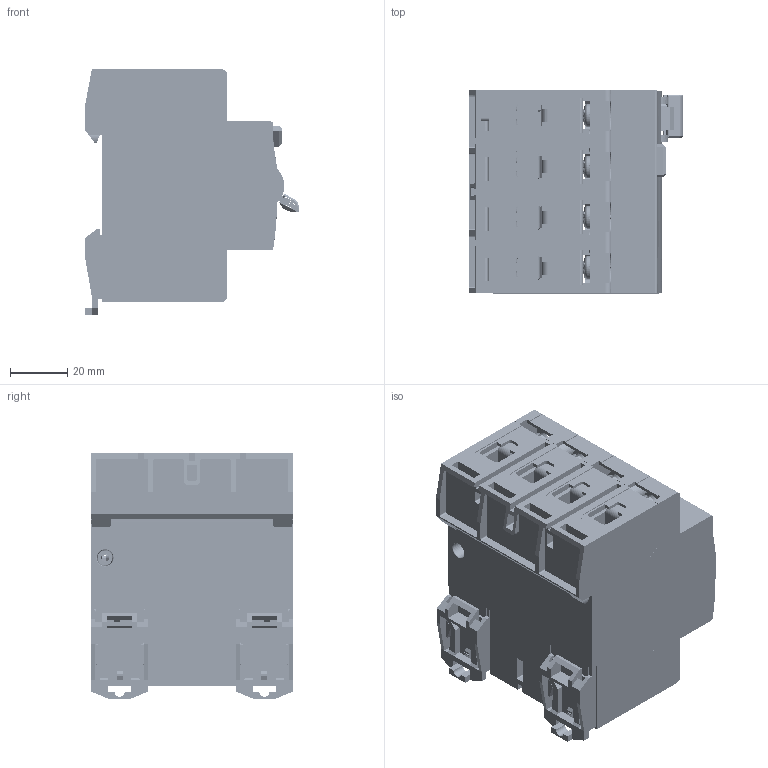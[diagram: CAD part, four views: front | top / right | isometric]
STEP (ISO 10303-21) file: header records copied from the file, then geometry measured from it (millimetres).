
FILE_DESCRIPTION (( 'STEP AP214' ), '1' );
FILE_NAME ('TFV4-25300.STEP', '2026-03-23T11:41:12', ( '' ), ( '' ), 'SwSTEP 2.0', 'SolidWorks 2025', '' );
FILE_SCHEMA (( 'AUTOMOTIVE_DESIGN' ));
Length unit declared in the file: millimetre
Products named in the file (1): TFV4-25300
Bounding box: 75.16 x 71 x 85.88 mm (x, y, z)
Volume: 82669.7 mm3; surface area: 113925.7 mm2
Topology: 36 solids, 36 shells, 4822 faces, 14418 edges, 9711 vertices
Faces by surface type: plane 2907, cylinder 1589, bspline 204, torus 82, cone 37, sphere 3
Entity records: 310936 total; most frequent: CARTESIAN_POINT 145060, ORIENTED_EDGE 28832, DIRECTION 22654, EDGE_CURVE 14416, VERTEX_POINT 9710, LINE 9288, VECTOR 9288, AXIS2_PLACEMENT_3D 6683
